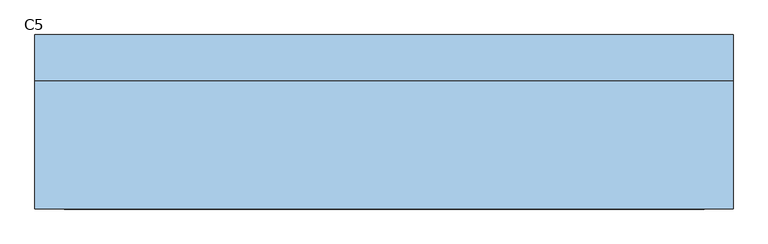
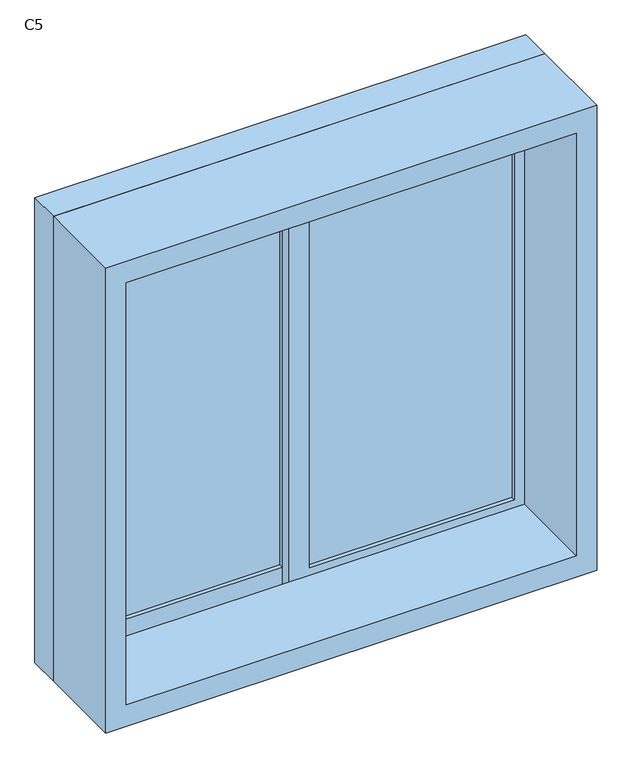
"""IFC4 building model written with IfcOpenShell, lengths in millimetres: window geometry, 推拉窗6 : C5."""

from ifc_helpers import new_model, si_unit, frame, origin, place, context, project, spatial, polyline, outline, extrude, source, transform, mapped, element, save


def c5_a65849cb(model_context):
    return source(origin(), model_context, "Body", "SweptSolid", [
        extrude(outline(polyline([(-515.475, 53.1265625), (-15.475, 53.1265625), (-15.475, 43.1265625), (-515.475, 43.1265625), (-515.475, 53.1265625)])), frame((0.0, 0.0, 975.0), z_axis=(0.0, 0.0, 1.0), x_axis=(1.0, 0.0, 0.0)), (0.0, 0.0, 1.0), 1050.0),
        extrude(outline(polyline([(34.525, 23.1265625), (534.525, 23.1265625), (534.525, 13.1265625), (34.525, 13.1265625), (34.525, 23.1265625)])), frame((0.0, 0.0, 975.0), z_axis=(0.0, 0.0, 1.0), x_axis=(1.0, 0.0, 0.0)), (0.0, 0.0, 1.0), 1050.0),
        extrude(outline(polyline([(2100.0, -590.475), (900.0, -590.475), (900.0, 609.525), (2100.0, 609.525), (2100.0, -590.475)]), holes=[polyline([(2045.0, 559.525), (955.0, 559.525), (955.0, -540.475), (2045.0, -540.475), (2045.0, 559.525)])]), frame((0.0, -216.8734375, 0.0), z_axis=(0.0, 1.0, 0.0), x_axis=(0.0, 0.0, 1.0)), (0.0, 0.0, 1.0), 220.0),
        extrude(outline(polyline([(925.0, 34.525), (2075.0, 34.525), (2075.0, -565.475), (925.0, -565.475), (925.0, 34.525)]), holes=[polyline([(975.0, -15.475), (975.0, -515.475), (2025.0, -515.475), (2025.0, -15.475), (975.0, -15.475)])]), frame((0.0, 33.1265625, 0.0), z_axis=(0.0, 1.0, 0.0), x_axis=(0.0, 0.0, 1.0)), (0.0, 0.0, 1.0), 30.0),
        extrude(outline(polyline([(2075.0, -15.475), (925.0, -15.475), (925.0, 584.525), (2075.0, 584.525), (2075.0, -15.475)]), holes=[polyline([(2025.0, 34.525), (2025.0, 534.525), (975.0, 534.525), (975.0, 34.525), (2025.0, 34.525)])]), frame((0.0, 3.1265625, 0.0), z_axis=(0.0, 1.0, 0.0), x_axis=(0.0, 0.0, 1.0)), (0.0, 0.0, 1.0), 30.0),
        extrude(outline(polyline([(2100.0, -590.475), (900.0, -590.475), (900.0, 609.525), (2100.0, 609.525), (2100.0, -590.475)]), holes=[polyline([(925.0, -565.475), (2075.0, -565.475), (2075.0, 584.525), (925.0, 584.525), (925.0, -565.475)])]), frame((0.0, 3.1265625, 0.0), z_axis=(0.0, 1.0, 0.0), x_axis=(0.0, 0.0, 1.0)), (0.0, 0.0, 1.0), 80.0),
    ])


if __name__ == "__main__":
    model = new_model("IFC4")
    model_context = context("Model", 3, world=origin())
    ifc_project = project(units=[si_unit("LENGTHUNIT", "METRE", prefix="MILLI")], contexts=[model_context])
    site = spatial("IfcSite", under=ifc_project)
    building = spatial("IfcBuilding", under=site)
    placement = place(None, origin())
    c5_shape = c5_a65849cb(model_context)
    element("IfcWindow", 1, ObjectType="推拉窗6 : C5", at=placement, inside=building, context=model_context, shape_type="MappedRepresentation", body=[
        mapped(c5_shape, transform((0.0, 0.0, 0.0), x_axis=(1.0, 0.0, 0.0), y_axis=(0.0, 1.0, 0.0), z_axis=(0.0, 0.0, 1.0))),
    ])
    save(model, "model.ifc")
